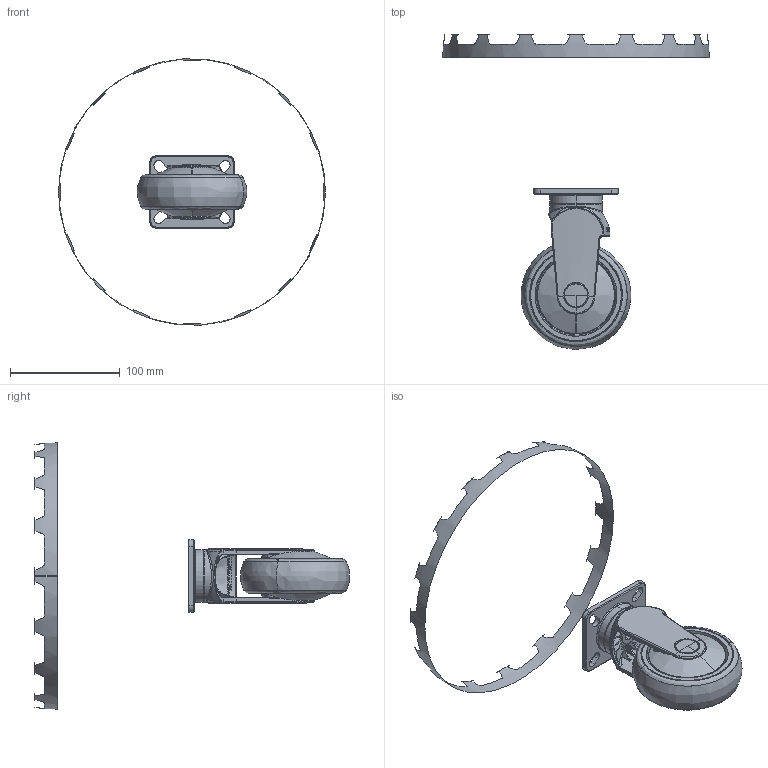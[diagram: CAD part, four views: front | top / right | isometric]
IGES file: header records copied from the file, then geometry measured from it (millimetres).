
Start section: SolidWorks IGES file using analytic representation for surfaces
Global section: file name: S:\Tyokansio\VL\301041_IGES.IGS; native system: SolidWorks 2011; preprocessor: SolidWorks 2011; author: VilleLa; date: 110622.133123; units: millimetre
Bounding box: 243.56 x 287.46 x 242.97 mm (x, y, z)
Surface area: 91649 mm2 (no closed solid volume)
Topology: 0 solids, 0 shells, 575 faces, 6503 edges, 6490 vertices
Faces by surface type: bspline 333, revolution 242
